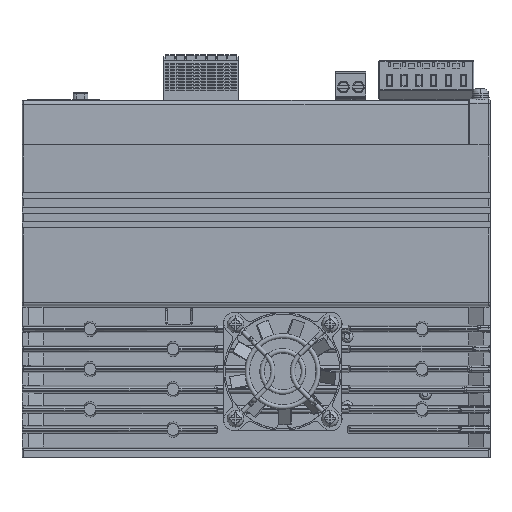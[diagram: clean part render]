
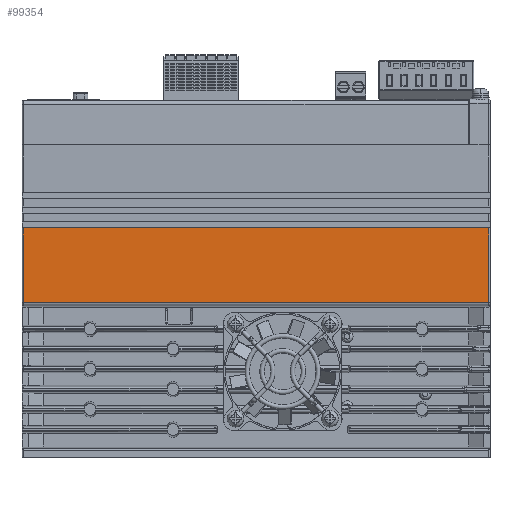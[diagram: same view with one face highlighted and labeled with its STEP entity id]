
A CAD part, left-side view. The second image highlights one B-rep face of the part: STEP entity #99354.
In plain terms, the highlighted planar face has unit normal (-1, 0, 0).
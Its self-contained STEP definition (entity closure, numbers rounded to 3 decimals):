
#9=CARTESIAN_POINT('',(-20.,78.5,77.474));
#26=DIRECTION('',(0.,0.,1.));
#27=VECTOR('',#26,25.229);
#28=CARTESIAN_POINT('',(-20.,78.5,52.245));
#29=LINE('',#28,#27);
#30=DIRECTION('',(0.,-1.,0.));
#31=VECTOR('',#30,157.);
#32=CARTESIAN_POINT('',(-20.,78.5,77.474));
#33=LINE('',#32,#31);
#34=DIRECTION('',(0.,0.,-1.));
#35=VECTOR('',#34,25.229);
#36=CARTESIAN_POINT('',(-20.,-78.5,77.474));
#37=LINE('',#36,#35);
#38=DIRECTION('',(0.,1.,0.));
#39=VECTOR('',#38,157.);
#40=CARTESIAN_POINT('',(-20.,-78.5,52.245));
#41=LINE('',#40,#39);
#78273=VERTEX_POINT('',#9);
#78274=CARTESIAN_POINT('',(-20.,78.5,52.245));
#78275=VERTEX_POINT('',#78274);
#78286=CARTESIAN_POINT('',(-20.,-78.5,52.245));
#78287=VERTEX_POINT('',#78286);
#78302=CARTESIAN_POINT('',(-20.,-78.5,77.474));
#78303=VERTEX_POINT('',#78302);
#99341=CARTESIAN_POINT('',(-20.,75.5,0.));
#99342=DIRECTION('',(-1.,0.,0.));
#99343=DIRECTION('',(0.,-1.,0.));
#99344=AXIS2_PLACEMENT_3D('',#99341,#99342,#99343);
#99345=PLANE('',#99344);
#99346=ORIENTED_EDGE('',*,*,#99332,.T.);
#99347=ORIENTED_EDGE('',*,*,#99321,.T.);
#99349=ORIENTED_EDGE('',*,*,#99348,.T.);
#99351=ORIENTED_EDGE('',*,*,#99350,.T.);
#99352=EDGE_LOOP('',(#99346,#99347,#99349,#99351));
#99353=FACE_OUTER_BOUND('',#99352,.F.);
#99354=ADVANCED_FACE('',(#99353),#99345,.T.);
#99321=EDGE_CURVE('',#78273,#78303,#33,.T.);
#99332=EDGE_CURVE('',#78275,#78273,#29,.T.);
#99348=EDGE_CURVE('',#78303,#78287,#37,.T.);
#99350=EDGE_CURVE('',#78287,#78275,#41,.T.);
